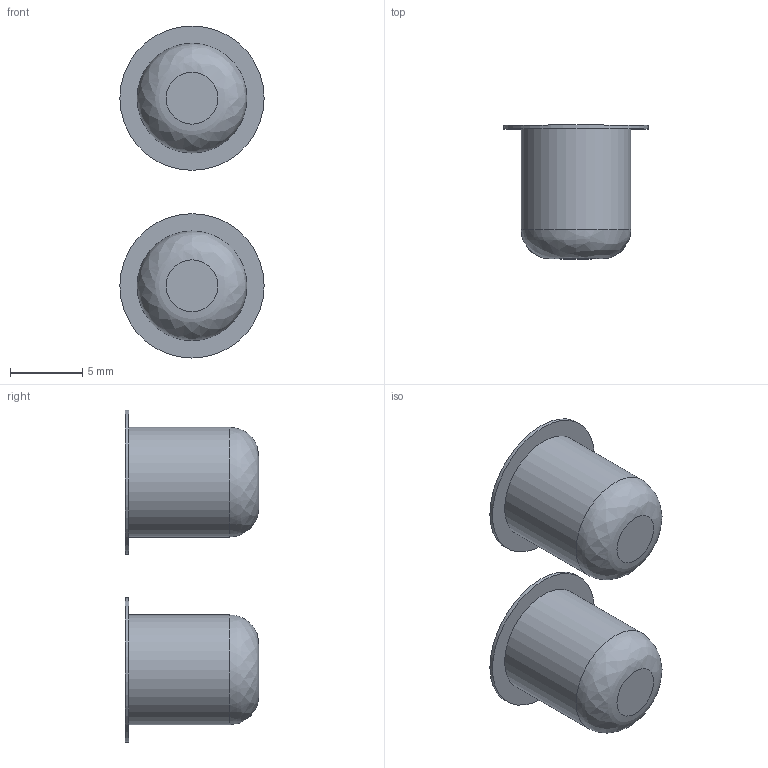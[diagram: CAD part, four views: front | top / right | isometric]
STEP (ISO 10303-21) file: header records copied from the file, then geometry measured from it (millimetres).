
FILE_DESCRIPTION(/* description */ (''),/* implementation_level */ '2;1');
FILE_NAME(/* name */ 'Lumi_TVbuttons.step',/* time_stamp */ '2025-06-14T15:41:23+05:30',/* author */ (''),/* organization */ (''),/* preprocessor_version */ 'ST-DEVELOPER v20.1',/* originating_system */ 'Autodesk Translation Framework v14.10.0.0',/* authorisation */ '');
FILE_SCHEMA (('AUTOMOTIVE_DESIGN { 1 0 10303 214 3 1 1 }'));
Length unit declared in the file: millimetre
Products named in the file (1): Buttons
Bounding box: 10 x 9.25 x 23 mm (x, y, z)
Volume: 819.6 mm3; surface area: 715.1 mm2
Topology: 2 solids, 2 shells, 12 faces, 18 edges, 12 vertices
Faces by surface type: plane 6, cylinder 4, bspline 2
Full cylindrical faces by diameter (mm): 7.6 x2, 10 x2
Entity records: 352 total; most frequent: CARTESIAN_POINT 95, DIRECTION 54, ORIENTED_EDGE 36, AXIS2_PLACEMENT_3D 25, EDGE_CURVE 18, EDGE_LOOP 14, CIRCLE 14, FACE_OUTER_BOUND 12
